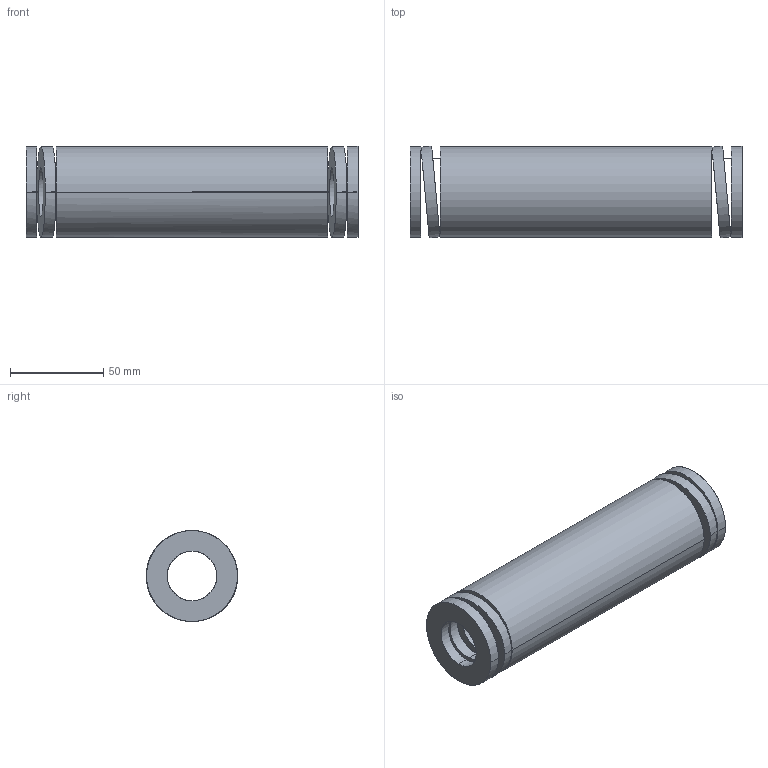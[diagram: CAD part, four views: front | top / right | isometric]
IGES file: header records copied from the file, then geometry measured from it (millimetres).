
Start section: START RECORD GO HERE.
Global section: file name: 392-B50-178.igs; native system: DASSAULT SYSTEMES CATIA V5 R20 - www.3ds.com; preprocessor: CATIA Version 5 Release 20 ; author: Utente; organization: NB04-ASUS; date: 20210813.132625; units: millimetre
Bounding box: 178 x 49.13 x 48.8 mm (x, y, z)
Surface area: 53131.5 mm2 (no closed solid volume)
Topology: 0 solids, 0 shells, 38 faces, 184 edges, 184 vertices
Faces by surface type: revolution 28, plane 10
